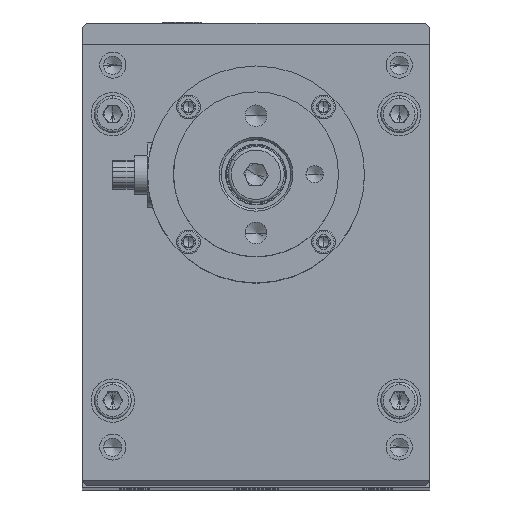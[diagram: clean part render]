
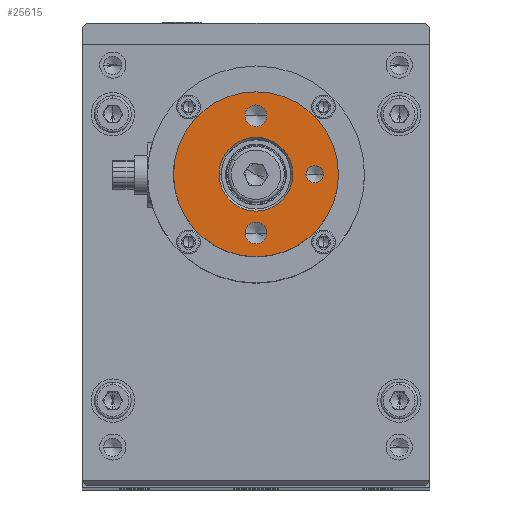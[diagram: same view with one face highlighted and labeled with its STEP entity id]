
A CAD part, top view. The second image highlights one B-rep face of the part: STEP entity #25615.
In plain terms, the highlighted planar face has unit normal (0, 0, 1).
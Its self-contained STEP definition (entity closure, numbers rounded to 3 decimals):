
#419 = CIRCLE ( 'NONE', #19288, 2. ) ;
#1076 = DIRECTION ( 'NONE',  ( -1., 0., 0. ) ) ;
#1174 = FACE_BOUND ( 'NONE', #25743, .T. ) ;
#1294 = CARTESIAN_POINT ( 'NONE',  ( 56.221, 108.416, 380.528 ) ) ;
#1584 = ORIENTED_EDGE ( 'NONE', *, *, #2545, .F. ) ;
#1603 = DIRECTION ( 'NONE',  ( 1., 0., 0. ) ) ;
#1822 = VERTEX_POINT ( 'NONE', #14681 ) ;
#2177 = EDGE_CURVE ( 'NONE', #19366, #7263, #29983, .T. ) ;
#2315 = EDGE_CURVE ( 'NONE', #7263, #19366, #4055, .T. ) ;
#2345 = CIRCLE ( 'NONE', #26372, 19. ) ;
#2424 = VERTEX_POINT ( 'NONE', #15357 ) ;
#2493 = CARTESIAN_POINT ( 'NONE',  ( 37.221, 94.916, 380.528 ) ) ;
#2545 = EDGE_CURVE ( 'NONE', #19020, #2424, #13096, .T. ) ;
#3384 = CARTESIAN_POINT ( 'NONE',  ( 71.721, 94.916, 380.528 ) ) ;
#3890 = AXIS2_PLACEMENT_3D ( 'NONE', #25957, #18527, #16000 ) ;
#3901 = FACE_BOUND ( 'NONE', #4303, .T. ) ;
#4055 = CIRCLE ( 'NONE', #16209, 2.5 ) ;
#4303 = EDGE_LOOP ( 'NONE', ( #8330, #6243 ) ) ;
#4484 = CARTESIAN_POINT ( 'NONE',  ( 56.221, 94.916, 380.528 ) ) ;
#4750 = EDGE_CURVE ( 'NONE', #7573, #1822, #30268, .T. ) ;
#4781 = CIRCLE ( 'NONE', #16300, 2.5 ) ;
#4865 = EDGE_LOOP ( 'NONE', ( #14090, #19229 ) ) ;
#4905 = VERTEX_POINT ( 'NONE', #5001 ) ;
#5001 = CARTESIAN_POINT ( 'NONE',  ( 75.221, 94.916, 380.528 ) ) ;
#5596 = VERTEX_POINT ( 'NONE', #2493 ) ;
#6243 = ORIENTED_EDGE ( 'NONE', *, *, #4750, .T. ) ;
#6348 = AXIS2_PLACEMENT_3D ( 'NONE', #14346, #12157, #6840 ) ;
#6775 = DIRECTION ( 'NONE',  ( 0., 0., 1. ) ) ;
#6802 = DIRECTION ( 'NONE',  ( -1., 0., 0. ) ) ;
#6840 = DIRECTION ( 'NONE',  ( -1., 0., 0. ) ) ;
#7073 = ORIENTED_EDGE ( 'NONE', *, *, #2177, .F. ) ;
#7263 = VERTEX_POINT ( 'NONE', #8036 ) ;
#7539 = DIRECTION ( 'NONE',  ( 0., 0., 1. ) ) ;
#7573 = VERTEX_POINT ( 'NONE', #21667 ) ;
#8036 = CARTESIAN_POINT ( 'NONE',  ( 53.721, 81.416, 380.528 ) ) ;
#8330 = ORIENTED_EDGE ( 'NONE', *, *, #31925, .T. ) ;
#8845 = DIRECTION ( 'NONE',  ( 0., 0., 1. ) ) ;
#9348 = DIRECTION ( 'NONE',  ( 0., 0., 1. ) ) ;
#9709 = AXIS2_PLACEMENT_3D ( 'NONE', #29722, #6775, #24249 ) ;
#9712 = DIRECTION ( 'NONE',  ( 0., 0., 1. ) ) ;
#11173 = CIRCLE ( 'NONE', #3890, 19. ) ;
#11783 = CARTESIAN_POINT ( 'NONE',  ( 69.721, 94.916, 380.528 ) ) ;
#11978 = DIRECTION ( 'NONE',  ( 0., 0., -1. ) ) ;
#12157 = DIRECTION ( 'NONE',  ( 0., 0., -1. ) ) ;
#12566 = VERTEX_POINT ( 'NONE', #21591 ) ;
#13096 = CIRCLE ( 'NONE', #20011, 2.5 ) ;
#13678 = EDGE_CURVE ( 'NONE', #5596, #4905, #2345, .T. ) ;
#13741 = FACE_OUTER_BOUND ( 'NONE', #4865, .T. ) ;
#13969 = EDGE_LOOP ( 'NONE', ( #14345, #23432 ) ) ;
#14090 = ORIENTED_EDGE ( 'NONE', *, *, #22980, .F. ) ;
#14345 = ORIENTED_EDGE ( 'NONE', *, *, #32434, .F. ) ;
#14346 = CARTESIAN_POINT ( 'NONE',  ( 56.221, 94.916, 380.528 ) ) ;
#14407 = DIRECTION ( 'NONE',  ( -1., 0., 0. ) ) ;
#14440 = DIRECTION ( 'NONE',  ( 0., 0., -1. ) ) ;
#14681 = CARTESIAN_POINT ( 'NONE',  ( 47.721, 94.916, 380.528 ) ) ;
#14825 = DIRECTION ( 'NONE',  ( -1., 0., 0. ) ) ;
#14991 = DIRECTION ( 'NONE',  ( -1., 0., 0. ) ) ;
#15357 = CARTESIAN_POINT ( 'NONE',  ( 53.721, 108.416, 380.528 ) ) ;
#15640 = EDGE_LOOP ( 'NONE', ( #21904, #7073 ) ) ;
#16000 = DIRECTION ( 'NONE',  ( 1., 0., 0. ) ) ;
#16098 = FACE_BOUND ( 'NONE', #15640, .T. ) ;
#16209 = AXIS2_PLACEMENT_3D ( 'NONE', #32381, #7539, #30249 ) ;
#16300 = AXIS2_PLACEMENT_3D ( 'NONE', #24500, #21786, #14407 ) ;
#18527 = DIRECTION ( 'NONE',  ( 0., 0., -1. ) ) ;
#19020 = VERTEX_POINT ( 'NONE', #26918 ) ;
#19229 = ORIENTED_EDGE ( 'NONE', *, *, #13678, .F. ) ;
#19288 = AXIS2_PLACEMENT_3D ( 'NONE', #27085, #29927, #27295 ) ;
#19366 = VERTEX_POINT ( 'NONE', #27180 ) ;
#19798 = CIRCLE ( 'NONE', #6348, 8.5 ) ;
#20011 = AXIS2_PLACEMENT_3D ( 'NONE', #1294, #8845, #1076 ) ;
#20035 = PLANE ( 'NONE',  #25787 ) ;
#21591 = CARTESIAN_POINT ( 'NONE',  ( 67.721, 94.916, 380.528 ) ) ;
#21667 = CARTESIAN_POINT ( 'NONE',  ( 64.721, 94.916, 380.528 ) ) ;
#21786 = DIRECTION ( 'NONE',  ( 0., 0., 1. ) ) ;
#21904 = ORIENTED_EDGE ( 'NONE', *, *, #2315, .F. ) ;
#22479 = VERTEX_POINT ( 'NONE', #3384 ) ;
#22980 = EDGE_CURVE ( 'NONE', #4905, #5596, #11173, .T. ) ;
#23014 = AXIS2_PLACEMENT_3D ( 'NONE', #11783, #9348, #6802 ) ;
#23432 = ORIENTED_EDGE ( 'NONE', *, *, #24995, .F. ) ;
#24249 = DIRECTION ( 'NONE',  ( -1., 0., 0. ) ) ;
#24500 = CARTESIAN_POINT ( 'NONE',  ( 56.221, 108.416, 380.528 ) ) ;
#24995 = EDGE_CURVE ( 'NONE', #22479, #12566, #419, .T. ) ;
#25615 = ADVANCED_FACE ( 'NONE', ( #27850, #1174, #16098, #3901, #13741 ), #20035, .T. ) ;
#25743 = EDGE_LOOP ( 'NONE', ( #26558, #1584 ) ) ;
#25787 = AXIS2_PLACEMENT_3D ( 'NONE', #27678, #9712, #14991 ) ;
#25957 = CARTESIAN_POINT ( 'NONE',  ( 56.221, 94.916, 380.528 ) ) ;
#26372 = AXIS2_PLACEMENT_3D ( 'NONE', #31665, #14440, #1603 ) ;
#26558 = ORIENTED_EDGE ( 'NONE', *, *, #32390, .F. ) ;
#26918 = CARTESIAN_POINT ( 'NONE',  ( 58.721, 108.416, 380.528 ) ) ;
#27085 = CARTESIAN_POINT ( 'NONE',  ( 69.721, 94.916, 380.528 ) ) ;
#27180 = CARTESIAN_POINT ( 'NONE',  ( 58.721, 81.416, 380.528 ) ) ;
#27295 = DIRECTION ( 'NONE',  ( -1., 0., 0. ) ) ;
#27678 = CARTESIAN_POINT ( 'NONE',  ( 64.221, 94.916, 380.528 ) ) ;
#27850 = FACE_BOUND ( 'NONE', #13969, .T. ) ;
#29124 = CIRCLE ( 'NONE', #23014, 2. ) ;
#29722 = CARTESIAN_POINT ( 'NONE',  ( 56.221, 81.416, 380.528 ) ) ;
#29927 = DIRECTION ( 'NONE',  ( 0., 0., 1. ) ) ;
#29983 = CIRCLE ( 'NONE', #9709, 2.5 ) ;
#30249 = DIRECTION ( 'NONE',  ( -1., 0., 0. ) ) ;
#30268 = CIRCLE ( 'NONE', #31193, 8.5 ) ;
#31193 = AXIS2_PLACEMENT_3D ( 'NONE', #4484, #11978, #14825 ) ;
#31665 = CARTESIAN_POINT ( 'NONE',  ( 56.221, 94.916, 380.528 ) ) ;
#31925 = EDGE_CURVE ( 'NONE', #1822, #7573, #19798, .T. ) ;
#32381 = CARTESIAN_POINT ( 'NONE',  ( 56.221, 81.416, 380.528 ) ) ;
#32390 = EDGE_CURVE ( 'NONE', #2424, #19020, #4781, .T. ) ;
#32434 = EDGE_CURVE ( 'NONE', #12566, #22479, #29124, .T. ) ;
